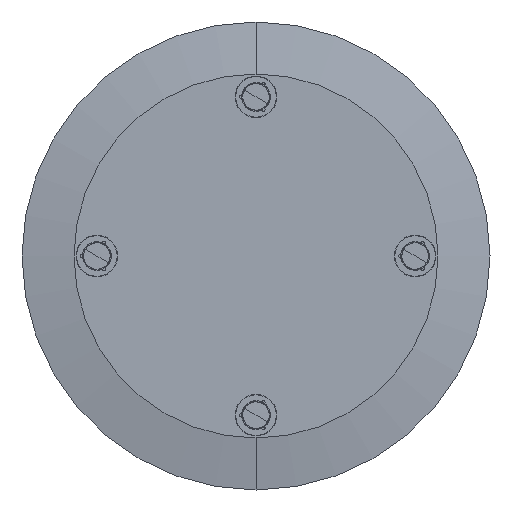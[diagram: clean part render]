
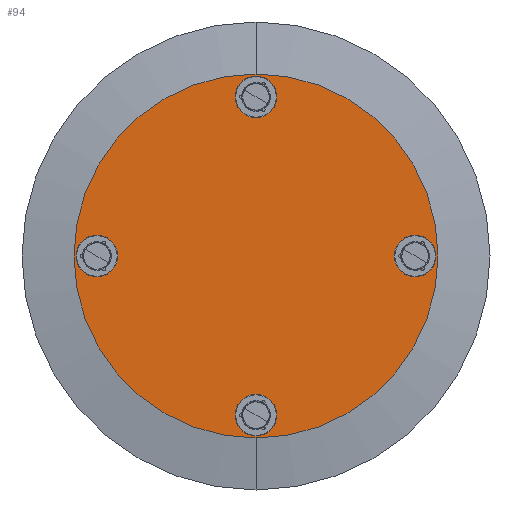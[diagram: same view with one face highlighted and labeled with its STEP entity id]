
A CAD part, front view. The second image highlights one B-rep face of the part: STEP entity #94.
In plain terms, the highlighted planar face has unit normal (0, -1, 0).
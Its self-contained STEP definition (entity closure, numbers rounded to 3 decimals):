
#5 = VERTEX_POINT ( 'NONE', #1756 ) ;
#73 = EDGE_LOOP ( 'NONE', ( #1152, #485 ) ) ;
#84 = FACE_BOUND ( 'NONE', #73, .T. ) ;
#93 = CARTESIAN_POINT ( 'NONE',  ( 0., 0., 306. ) ) ;
#94 = ADVANCED_FACE ( 'NONE', ( #333, #1389, #2039, #84, #120 ), #818, .F. ) ;
#96 = AXIS2_PLACEMENT_3D ( 'NONE', #2334, #939, #1351 ) ;
#120 = FACE_OUTER_BOUND ( 'NONE', #2212, .T. ) ;
#122 = DIRECTION ( 'NONE',  ( 0., 0., -1. ) ) ;
#125 = EDGE_LOOP ( 'NONE', ( #327, #1515 ) ) ;
#247 = ORIENTED_EDGE ( 'NONE', *, *, #1019, .T. ) ;
#252 = DIRECTION ( 'NONE',  ( 0., 0., 1. ) ) ;
#277 = DIRECTION ( 'NONE',  ( 0., -1., 0. ) ) ;
#285 = ORIENTED_EDGE ( 'NONE', *, *, #1470, .F. ) ;
#311 = VERTEX_POINT ( 'NONE', #1667 ) ;
#322 = VERTEX_POINT ( 'NONE', #1874 ) ;
#327 = ORIENTED_EDGE ( 'NONE', *, *, #613, .F. ) ;
#333 = FACE_BOUND ( 'NONE', #2411, .T. ) ;
#357 = EDGE_CURVE ( 'NONE', #1413, #1767, #1506, .T. ) ;
#424 = ORIENTED_EDGE ( 'NONE', *, *, #1102, .T. ) ;
#425 = CIRCLE ( 'NONE', #96, 40. ) ;
#449 = DIRECTION ( 'NONE',  ( 0., -1., 0. ) ) ;
#462 = AXIS2_PLACEMENT_3D ( 'NONE', #93, #1305, #122 ) ;
#485 = ORIENTED_EDGE ( 'NONE', *, *, #1518, .F. ) ;
#494 = CARTESIAN_POINT ( 'NONE',  ( 0., 0., -306. ) ) ;
#496 = CARTESIAN_POINT ( 'NONE',  ( -306., 0., 0. ) ) ;
#556 = DIRECTION ( 'NONE',  ( 0., 0., -1. ) ) ;
#576 = CARTESIAN_POINT ( 'NONE',  ( 306., 0., 0. ) ) ;
#588 = DIRECTION ( 'NONE',  ( 0., -1., 0. ) ) ;
#609 = CIRCLE ( 'NONE', #1784, 40. ) ;
#613 = EDGE_CURVE ( 'NONE', #1767, #1413, #733, .T. ) ;
#631 = AXIS2_PLACEMENT_3D ( 'NONE', #496, #277, #1291 ) ;
#733 = CIRCLE ( 'NONE', #2318, 40. ) ;
#759 = EDGE_CURVE ( 'NONE', #1252, #1457, #1818, .T. ) ;
#761 = DIRECTION ( 'NONE',  ( 0., 0., -1. ) ) ;
#790 = DIRECTION ( 'NONE',  ( 0., 1., 0. ) ) ;
#818 = PLANE ( 'NONE',  #2220 ) ;
#899 = AXIS2_PLACEMENT_3D ( 'NONE', #2389, #2013, #1248 ) ;
#939 = DIRECTION ( 'NONE',  ( 0., -1., 0. ) ) ;
#946 = CARTESIAN_POINT ( 'NONE',  ( -306., 0., 0. ) ) ;
#974 = VERTEX_POINT ( 'NONE', #1967 ) ;
#994 = DIRECTION ( 'NONE',  ( 0., 0., -1. ) ) ;
#1019 = EDGE_CURVE ( 'NONE', #5, #322, #1107, .T. ) ;
#1099 = VERTEX_POINT ( 'NONE', #2224 ) ;
#1102 = EDGE_CURVE ( 'NONE', #322, #5, #2010, .T. ) ;
#1107 = CIRCLE ( 'NONE', #1528, 350. ) ;
#1152 = ORIENTED_EDGE ( 'NONE', *, *, #759, .F. ) ;
#1180 = AXIS2_PLACEMENT_3D ( 'NONE', #494, #1471, #1280 ) ;
#1248 = DIRECTION ( 'NONE',  ( 0., 0., 1. ) ) ;
#1252 = VERTEX_POINT ( 'NONE', #2052 ) ;
#1263 = ORIENTED_EDGE ( 'NONE', *, *, #1677, .F. ) ;
#1280 = DIRECTION ( 'NONE',  ( 0., 0., -1. ) ) ;
#1291 = DIRECTION ( 'NONE',  ( 0., 0., -1. ) ) ;
#1305 = DIRECTION ( 'NONE',  ( 0., -1., 0. ) ) ;
#1351 = DIRECTION ( 'NONE',  ( 0., 0., -1. ) ) ;
#1383 = DIRECTION ( 'NONE',  ( 0., 0., 1. ) ) ;
#1389 = FACE_BOUND ( 'NONE', #125, .T. ) ;
#1405 = ORIENTED_EDGE ( 'NONE', *, *, #2116, .F. ) ;
#1413 = VERTEX_POINT ( 'NONE', #1909 ) ;
#1428 = CARTESIAN_POINT ( 'NONE',  ( 0., 0., 0. ) ) ;
#1457 = VERTEX_POINT ( 'NONE', #2281 ) ;
#1470 = EDGE_CURVE ( 'NONE', #1603, #974, #2129, .T. ) ;
#1471 = DIRECTION ( 'NONE',  ( 0., -1., 0. ) ) ;
#1493 = ORIENTED_EDGE ( 'NONE', *, *, #2514, .F. ) ;
#1506 = CIRCLE ( 'NONE', #1180, 40. ) ;
#1515 = ORIENTED_EDGE ( 'NONE', *, *, #357, .F. ) ;
#1518 = EDGE_CURVE ( 'NONE', #1457, #1252, #425, .T. ) ;
#1528 = AXIS2_PLACEMENT_3D ( 'NONE', #1428, #449, #252 ) ;
#1539 = DIRECTION ( 'NONE',  ( 0., 0., -1. ) ) ;
#1601 = CARTESIAN_POINT ( 'NONE',  ( 306., 0., -40. ) ) ;
#1603 = VERTEX_POINT ( 'NONE', #1601 ) ;
#1605 = CIRCLE ( 'NONE', #1913, 40. ) ;
#1654 = CARTESIAN_POINT ( 'NONE',  ( 0., 0., -346. ) ) ;
#1667 = CARTESIAN_POINT ( 'NONE',  ( -306., 0., -40. ) ) ;
#1677 = EDGE_CURVE ( 'NONE', #1099, #311, #2195, .T. ) ;
#1754 = CARTESIAN_POINT ( 'NONE',  ( 0., 0., -306. ) ) ;
#1756 = CARTESIAN_POINT ( 'NONE',  ( 0., 0., -350. ) ) ;
#1758 = CARTESIAN_POINT ( 'NONE',  ( 306., 0., 0. ) ) ;
#1759 = DIRECTION ( 'NONE',  ( 0., -1., 0. ) ) ;
#1767 = VERTEX_POINT ( 'NONE', #1654 ) ;
#1784 = AXIS2_PLACEMENT_3D ( 'NONE', #946, #2139, #1539 ) ;
#1818 = CIRCLE ( 'NONE', #462, 40. ) ;
#1874 = CARTESIAN_POINT ( 'NONE',  ( 0., 0., 350. ) ) ;
#1909 = CARTESIAN_POINT ( 'NONE',  ( 0., 0., -266. ) ) ;
#1913 = AXIS2_PLACEMENT_3D ( 'NONE', #1758, #2156, #994 ) ;
#1967 = CARTESIAN_POINT ( 'NONE',  ( 306., 0., 40. ) ) ;
#1996 = CARTESIAN_POINT ( 'NONE',  ( 0., 0., 0. ) ) ;
#2010 = CIRCLE ( 'NONE', #899, 350. ) ;
#2013 = DIRECTION ( 'NONE',  ( 0., -1., 0. ) ) ;
#2039 = FACE_BOUND ( 'NONE', #2121, .T. ) ;
#2052 = CARTESIAN_POINT ( 'NONE',  ( 0., 0., 266. ) ) ;
#2116 = EDGE_CURVE ( 'NONE', #311, #1099, #609, .T. ) ;
#2121 = EDGE_LOOP ( 'NONE', ( #1405, #1263 ) ) ;
#2129 = CIRCLE ( 'NONE', #2137, 40. ) ;
#2137 = AXIS2_PLACEMENT_3D ( 'NONE', #576, #1759, #556 ) ;
#2139 = DIRECTION ( 'NONE',  ( 0., -1., 0. ) ) ;
#2156 = DIRECTION ( 'NONE',  ( 0., -1., 0. ) ) ;
#2195 = CIRCLE ( 'NONE', #631, 40. ) ;
#2212 = EDGE_LOOP ( 'NONE', ( #424, #247 ) ) ;
#2220 = AXIS2_PLACEMENT_3D ( 'NONE', #1996, #790, #1383 ) ;
#2224 = CARTESIAN_POINT ( 'NONE',  ( -306., 0., 40. ) ) ;
#2281 = CARTESIAN_POINT ( 'NONE',  ( 0., 0., 346. ) ) ;
#2318 = AXIS2_PLACEMENT_3D ( 'NONE', #1754, #588, #761 ) ;
#2334 = CARTESIAN_POINT ( 'NONE',  ( 0., 0., 306. ) ) ;
#2389 = CARTESIAN_POINT ( 'NONE',  ( 0., 0., 0. ) ) ;
#2411 = EDGE_LOOP ( 'NONE', ( #285, #1493 ) ) ;
#2514 = EDGE_CURVE ( 'NONE', #974, #1603, #1605, .T. ) ;
